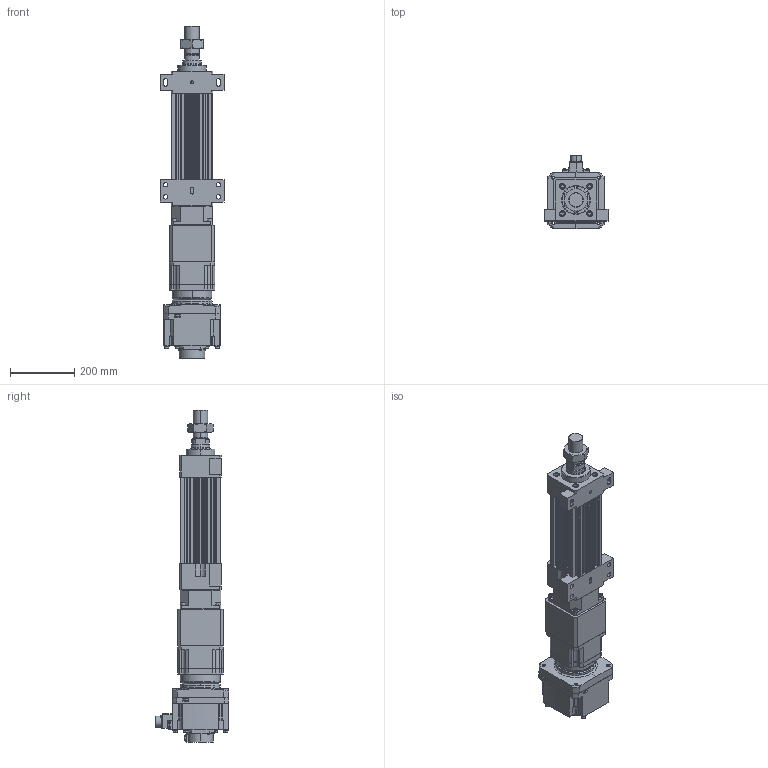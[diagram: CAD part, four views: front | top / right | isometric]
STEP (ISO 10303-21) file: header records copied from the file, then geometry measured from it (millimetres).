
FILE_DESCRIPTION (( 'STEP AP203' ), '1' );
FILE_NAME ('HES130FS(HS)-S050-W020G00-M-FFB.STEP', '2023-01-30T12:14:52', ( 'tms' ), ( '' ), 'SwSTEP 2.0', 'SolidWorks 2013', '' );
FILE_SCHEMA (( 'CONFIG_CONTROL_DESIGN' ));
Length unit declared in the file: millimetre
Products named in the file (9): M45X1.5P; HES130-S050-G142-FFB; HG-SR202; AB1421; HES130FS(HS)-S050-W020G00-M-FFB; P1301500001; HES130 ROD M ST050; AB142-003[HG-SR352]; P0403500801
Assembly tree (8 placements, depth 3):
  HES130FS(HS)-S050-W020G00-M-FFB
    HES130-S050-G142-FFB
    HES130 ROD M ST050
    M45X1.5P
    AB142-003[HG-SR352]
      AB1421
      P1301500001
      P0403500801
    HG-SR202
Bounding box: 200 x 228.85 x 1037.5 mm (x, y, z)
Volume: 9604131.6 mm3; surface area: 1164238.6 mm2
Topology: 4 solids, 22 shells, 1518 faces, 3922 edges, 2545 vertices
Faces by surface type: cylinder 676, plane 600, cone 160, bspline 76, torus 6
Entity records: 55270 total; most frequent: CARTESIAN_POINT 16778, DIRECTION 8032, ORIENTED_EDGE 7750, EDGE_CURVE 3897, AXIS2_PLACEMENT_3D 3016, VERTEX_POINT 2545, LINE 2000, VECTOR 2000
